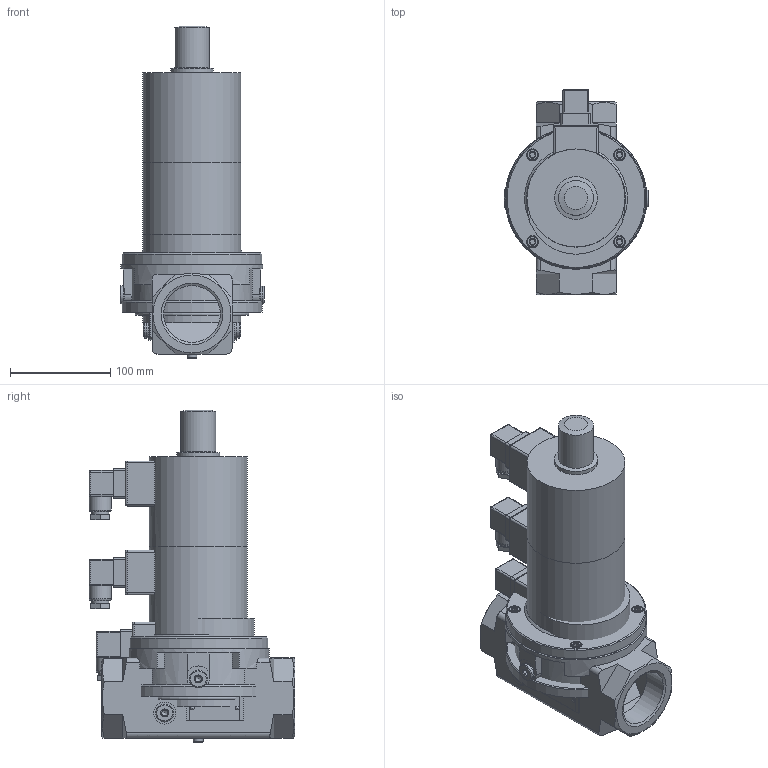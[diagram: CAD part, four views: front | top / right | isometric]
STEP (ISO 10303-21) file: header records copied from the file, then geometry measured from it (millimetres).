
FILE_DESCRIPTION( ( 'Unknown' ), '1' );
FILE_NAME( 'D:/Wyroby/Widoki gabarytowe/Zawory ZED/ZED_50/ZED_50.stp', 'Unknown', ( 'Unknown' ), ( 'Unknown' ), 'XStep 1.0', 'Unknown', ' ' );
FILE_SCHEMA( ( 'CONFIG_CONTROL_DESIGN' ) );
Length unit declared in the file: millimetre
Products named in the file (58): Wa_031_01_01z_korkami; Wa_148_01_01; Wa_150_01_02; Wa_031_01_02; Wa_148_01_00; Assem1; Wa_031_01_01bez_gniazd.z_kork.; Wa_031_01_01_001gotowe; Wa_031_01_02_001zaci從i黎y; Wa_031_01_02_003zaci從i黎a; Wa_031_01_02_002; Wa_148_01_01_001; Wa_148_01_01_002; Wa_031_01_04_002got; Wa_031_01_04_001; Wa_150_01_02_001; Wa_148_01_02_002got.; Wa_031_01_00_006; Wa_031_01_00_001; Œ-008ImbusM6x16; Wa_031_01_00_012; Wa_031_01_00_010; T-026; K-006got.; Wa_031_01_00_002彡i從i黎a30,5; Wa_031_01_06; Wa_148_01_00_008; Wa_148_01_00_007; Wa_148_01_00_001; Wa_148_01_00_010; Wa_148_01_00_004; Oring105x3,5œciœn_rozæ.; Wa_031_01_00_003; Oring32x2,5彡i從.; Wa_148_01_00_002; Wa_148_01_00_003; Oring12x2彡i從i黎y; Oring6x2彡i從.; Wa_148_01_00_009; Wa_145_01_00_009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
Bounding box: 144 x 205.5 x 332 mm (x, y, z)
Volume: 6543005.1 mm3; surface area: 1550992.7 mm2
Topology: 165 solids, 165 shells, 2715 faces, 5932 edges, 3765 vertices
Faces by surface type: plane 1288, cylinder 818, cone 487, torus 73, sphere 42, bspline 7
Full cylindrical faces by diameter (mm): 2 x9, 2.1 x8, 2.5 x10, 4.8 x7, 4.917 x24, 6 x22, 6.1 x3, 6.5 x15, 6.6 x12, 6.917 x6, 8 x11, 8.2 x15, 9 x4, 9.7 x15, 10 x15, 11 x15, 11.445 x16, 11.5 x3, 12.5 x9, 12.7 x6, 12.917 x6, 13 x12, 13.8 x12, 14 x6, 15.5 x9, 16 x6, 16.2 x3, 17 x4, 18 x24, 22 x12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
Entity records: 25553 total; most frequent: CARTESIAN_POINT 6117, DIRECTION 3711, ORIENTED_EDGE 2718, AXIS2_PLACEMENT_3D 1584, EDGE_LOOP 1364, EDGE_CURVE 1359, FACE_OUTER_BOUND 1057, VERTEX_POINT 1057
